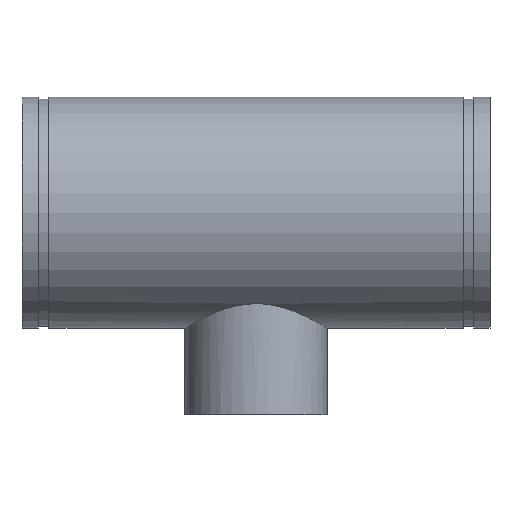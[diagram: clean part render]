
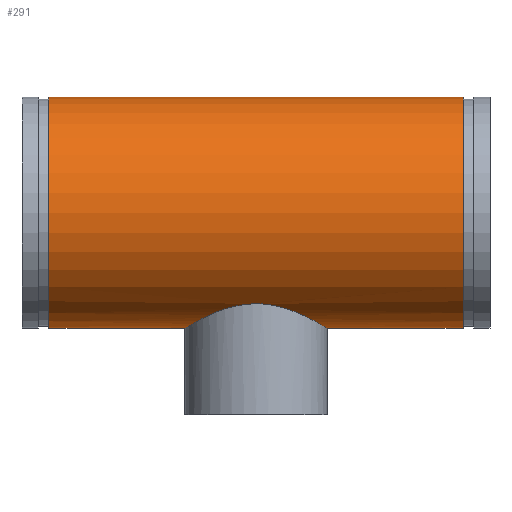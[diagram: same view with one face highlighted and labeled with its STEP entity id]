
A CAD part, top view. The second image highlights one B-rep face of the part: STEP entity #291.
In plain terms, the highlighted cylindrical face has radius 136.525 mm (diameter 273.05 mm), a full revolution.
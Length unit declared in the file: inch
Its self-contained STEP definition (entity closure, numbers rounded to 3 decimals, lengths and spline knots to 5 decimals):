
#45=B_SPLINE_CURVE_WITH_KNOTS('',3,(#511,#512,#513,#514,#515,#516,#517,
#518,#519,#520,#521,#522,#523,#524,#525,#526,#527,#528,#529,#530,#531,#532,
#533,#534,#535,#536,#537,#538,#539,#540,#541,#542,#543,#544,#545,#546,#547,
#548,#549,#550,#551,#552,#553,#554,#555,#556,#557,#558,#559,#560),
 .UNSPECIFIED.,.F.,.F.,(4,2,2,2,2,2,2,2,2,2,2,2,2,2,2,2,2,2,2,2,2,2,2,2,
4),(0.,1.64439,3.28878,4.93317,6.57757,
8.20984,9.84212,11.4744,13.10668,14.73896,
16.37124,18.00352,19.6358,21.28019,22.92458,
24.56897,26.21336,27.85775,29.50214,31.14654,
32.79093,34.42321,36.05548,37.68776,39.32004),
 .UNSPECIFIED.);
#46=B_SPLINE_CURVE_WITH_KNOTS('',3,(#561,#562,#563,#564,#565,#566,#567,
#568,#569,#570,#571,#572,#573,#574,#575,#576,#577,#578),.UNSPECIFIED.,.F.,
 .F.,(4,2,2,2,2,2,2,2,4),(39.32004,40.95232,42.5846,
44.21688,45.84916,47.49355,49.13794,50.78233,
52.42672),.UNSPECIFIED.);
#51=LINE('',#508,#59);
#59=VECTOR('',#410,5.375);
#67=CYLINDRICAL_SURFACE('',#338,5.375);
#77=FACE_BOUND('',#108,.T.);
#88=FACE_OUTER_BOUND('',#107,.T.);
#107=EDGE_LOOP('',(#221,#222,#223,#224));
#108=EDGE_LOOP('',(#225,#226));
#121=CIRCLE('',#321,5.375);
#132=CIRCLE('',#337,5.375);
#141=VERTEX_POINT('',#476);
#152=VERTEX_POINT('',#505);
#153=VERTEX_POINT('',#509);
#154=VERTEX_POINT('',#510);
#165=EDGE_CURVE('',#141,#141,#121,.T.);
#178=EDGE_CURVE('',#152,#152,#132,.T.);
#179=EDGE_CURVE('',#152,#141,#51,.T.);
#180=EDGE_CURVE('',#153,#154,#45,.T.);
#181=EDGE_CURVE('',#154,#153,#46,.T.);
#221=ORIENTED_EDGE('',*,*,#178,.T.);
#222=ORIENTED_EDGE('',*,*,#179,.T.);
#223=ORIENTED_EDGE('',*,*,#165,.T.);
#224=ORIENTED_EDGE('',*,*,#179,.F.);
#225=ORIENTED_EDGE('',*,*,#180,.F.);
#226=ORIENTED_EDGE('',*,*,#181,.F.);
#291=ADVANCED_FACE('',(#88,#77),#67,.T.);
#321=AXIS2_PLACEMENT_3D('',#477,#372,#373);
#337=AXIS2_PLACEMENT_3D('',#506,#406,#407);
#338=AXIS2_PLACEMENT_3D('',#507,#408,#409);
#372=DIRECTION('center_axis',(-1.,0.,0.));
#373=DIRECTION('ref_axis',(0.,-1.,0.));
#406=DIRECTION('center_axis',(1.,0.,0.));
#407=DIRECTION('ref_axis',(0.,-1.,0.));
#408=DIRECTION('center_axis',(-1.,0.,0.));
#409=DIRECTION('ref_axis',(0.,-1.,0.));
#410=DIRECTION('',(1.,0.,0.));
#476=CARTESIAN_POINT('',(9.63,5.375,0.));
#477=CARTESIAN_POINT('Origin',(9.63,0.,0.));
#505=CARTESIAN_POINT('',(-9.63,5.375,0.));
#506=CARTESIAN_POINT('Origin',(-9.63,0.,0.));
#507=CARTESIAN_POINT('Origin',(10.88,0.,0.));
#508=CARTESIAN_POINT('',(10.88,5.375,0.));
#509=CARTESIAN_POINT('',(0.,-4.23296,-3.3125));
#510=CARTESIAN_POINT('',(-3.3125,-5.375,0.));
#511=CARTESIAN_POINT('Ctrl Pts',(0.,-4.23296,
-3.3125));
#512=CARTESIAN_POINT('Ctrl Pts',(0.2158,-4.23296,-3.3125));
#513=CARTESIAN_POINT('Ctrl Pts',(0.43594,-4.24997,-3.2911));
#514=CARTESIAN_POINT('Ctrl Pts',(0.8689,-4.31592,-3.20413));
#515=CARTESIAN_POINT('Ctrl Pts',(1.08175,-4.3647,-3.13859));
#516=CARTESIAN_POINT('Ctrl Pts',(1.48684,-4.48231,-2.96821));
#517=CARTESIAN_POINT('Ctrl Pts',(1.67951,-4.55107,-2.86321));
#518=CARTESIAN_POINT('Ctrl Pts',(2.03505,-4.69392,-2.62247));
#519=CARTESIAN_POINT('Ctrl Pts',(2.19792,-4.7679,-2.48666));
#520=CARTESIAN_POINT('Ctrl Pts',(2.48559,-4.90718,-2.19899));
#521=CARTESIAN_POINT('Ctrl Pts',(2.62122,-4.9778,-2.03667));
#522=CARTESIAN_POINT('Ctrl Pts',(2.86235,-5.10889,-1.681));
#523=CARTESIAN_POINT('Ctrl Pts',(2.96787,-5.16928,-1.48763));
#524=CARTESIAN_POINT('Ctrl Pts',(3.13891,-5.26934,-1.08098));
#525=CARTESIAN_POINT('Ctrl Pts',(3.20458,-5.30906,-0.86729));
#526=CARTESIAN_POINT('Ctrl Pts',(3.29139,-5.3619,-0.4339));
#527=CARTESIAN_POINT('Ctrl Pts',(3.3125,-5.375,-0.21421));
#528=CARTESIAN_POINT('Ctrl Pts',(3.3125,-5.375,0.21421));
#529=CARTESIAN_POINT('Ctrl Pts',(3.29139,-5.3619,0.4339));
#530=CARTESIAN_POINT('Ctrl Pts',(3.20458,-5.30906,0.86729));
#531=CARTESIAN_POINT('Ctrl Pts',(3.13891,-5.26934,1.08098));
#532=CARTESIAN_POINT('Ctrl Pts',(2.96787,-5.16928,1.48763));
#533=CARTESIAN_POINT('Ctrl Pts',(2.86235,-5.10889,1.681));
#534=CARTESIAN_POINT('Ctrl Pts',(2.62122,-4.9778,2.03667));
#535=CARTESIAN_POINT('Ctrl Pts',(2.48559,-4.90718,2.19899));
#536=CARTESIAN_POINT('Ctrl Pts',(2.19792,-4.7679,2.48666));
#537=CARTESIAN_POINT('Ctrl Pts',(2.03505,-4.69392,2.62247));
#538=CARTESIAN_POINT('Ctrl Pts',(1.67951,-4.55107,2.86321));
#539=CARTESIAN_POINT('Ctrl Pts',(1.48684,-4.48231,2.96821));
#540=CARTESIAN_POINT('Ctrl Pts',(1.08175,-4.3647,3.13859));
#541=CARTESIAN_POINT('Ctrl Pts',(0.8689,-4.31592,3.20413));
#542=CARTESIAN_POINT('Ctrl Pts',(0.43594,-4.24997,3.2911));
#543=CARTESIAN_POINT('Ctrl Pts',(0.2158,-4.23296,3.3125));
#544=CARTESIAN_POINT('Ctrl Pts',(-0.2158,-4.23296,3.3125));
#545=CARTESIAN_POINT('Ctrl Pts',(-0.43594,-4.24997,3.2911));
#546=CARTESIAN_POINT('Ctrl Pts',(-0.8689,-4.31592,3.20413));
#547=CARTESIAN_POINT('Ctrl Pts',(-1.08175,-4.3647,3.13859));
#548=CARTESIAN_POINT('Ctrl Pts',(-1.48684,-4.48231,2.96821));
#549=CARTESIAN_POINT('Ctrl Pts',(-1.67951,-4.55107,2.86321));
#550=CARTESIAN_POINT('Ctrl Pts',(-2.03505,-4.69392,2.62247));
#551=CARTESIAN_POINT('Ctrl Pts',(-2.19792,-4.7679,2.48666));
#552=CARTESIAN_POINT('Ctrl Pts',(-2.48559,-4.90718,2.19899));
#553=CARTESIAN_POINT('Ctrl Pts',(-2.62122,-4.9778,2.03667));
#554=CARTESIAN_POINT('Ctrl Pts',(-2.86235,-5.10889,1.681));
#555=CARTESIAN_POINT('Ctrl Pts',(-2.96787,-5.16928,1.48763));
#556=CARTESIAN_POINT('Ctrl Pts',(-3.13891,-5.26934,1.08098));
#557=CARTESIAN_POINT('Ctrl Pts',(-3.20458,-5.30906,0.86729));
#558=CARTESIAN_POINT('Ctrl Pts',(-3.29139,-5.3619,0.4339));
#559=CARTESIAN_POINT('Ctrl Pts',(-3.3125,-5.375,0.21421));
#560=CARTESIAN_POINT('Ctrl Pts',(-3.3125,-5.375,0.));
#561=CARTESIAN_POINT('Ctrl Pts',(-3.3125,-5.375,0.));
#562=CARTESIAN_POINT('Ctrl Pts',(-3.3125,-5.375,-0.21421));
#563=CARTESIAN_POINT('Ctrl Pts',(-3.29139,-5.3619,-0.4339));
#564=CARTESIAN_POINT('Ctrl Pts',(-3.20458,-5.30906,-0.86729));
#565=CARTESIAN_POINT('Ctrl Pts',(-3.13891,-5.26934,-1.08098));
#566=CARTESIAN_POINT('Ctrl Pts',(-2.96787,-5.16928,-1.48763));
#567=CARTESIAN_POINT('Ctrl Pts',(-2.86235,-5.10889,-1.681));
#568=CARTESIAN_POINT('Ctrl Pts',(-2.62122,-4.9778,-2.03667));
#569=CARTESIAN_POINT('Ctrl Pts',(-2.48559,-4.90718,-2.19899));
#570=CARTESIAN_POINT('Ctrl Pts',(-2.19792,-4.7679,-2.48666));
#571=CARTESIAN_POINT('Ctrl Pts',(-2.03505,-4.69392,-2.62247));
#572=CARTESIAN_POINT('Ctrl Pts',(-1.67951,-4.55107,-2.86321));
#573=CARTESIAN_POINT('Ctrl Pts',(-1.48684,-4.48231,-2.96821));
#574=CARTESIAN_POINT('Ctrl Pts',(-1.08175,-4.3647,-3.13859));
#575=CARTESIAN_POINT('Ctrl Pts',(-0.8689,-4.31592,-3.20413));
#576=CARTESIAN_POINT('Ctrl Pts',(-0.43594,-4.24997,-3.2911));
#577=CARTESIAN_POINT('Ctrl Pts',(-0.2158,-4.23296,-3.3125));
#578=CARTESIAN_POINT('Ctrl Pts',(0.,-4.23296,
-3.3125));
